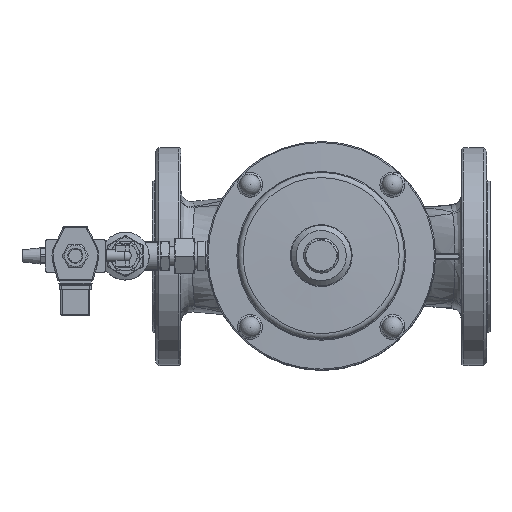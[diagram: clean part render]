
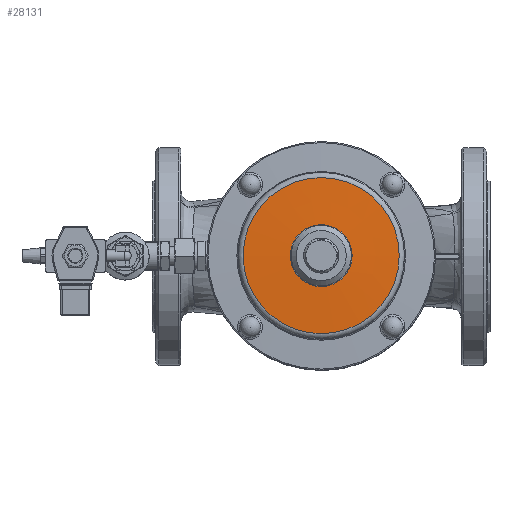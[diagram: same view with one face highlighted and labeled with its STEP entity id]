
A CAD part, top view. The second image highlights one B-rep face of the part: STEP entity #28131.
In plain terms, the highlighted conical face has half-angle 88 degrees and reference radius 52.247 mm.
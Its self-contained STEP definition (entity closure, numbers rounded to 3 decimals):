
#27933=CARTESIAN_POINT('',(-71.674,0.,539.475));
#27934=VERTEX_POINT('',#27933);
#27935=CARTESIAN_POINT('',(0.,0.,539.475));
#27936=DIRECTION('',(0.0,0.0,-1.0));
#27937=DIRECTION('',(1.0,0.0,0.0));
#27938=AXIS2_PLACEMENT_3D('',#27935,#27936,#27937);
#27939=CIRCLE('',#27938,71.674);
#27940=EDGE_CURVE('',#27934,#27934,#27939,.T.);
#28112=CARTESIAN_POINT('',(0.,0.,540.153));
#28113=DIRECTION('',(0.,0.,-1.0));
#28114=DIRECTION('',(-1.0,0.0,0.0));
#28115=AXIS2_PLACEMENT_3D('',#28112,#28113,#28114);
#28116=CONICAL_SURFACE('',#28115,52.247,88.);
#28117=ORIENTED_EDGE('',*,*,#27940,.F.);
#28118=EDGE_LOOP('',(#28117));
#28119=FACE_OUTER_BOUND('',#28118,.T.);
#28120=CARTESIAN_POINT('',(-28.387,0.,540.986));
#28121=VERTEX_POINT('',#28120);
#28122=CARTESIAN_POINT('',(0.,0.,540.986));
#28123=DIRECTION('',(0.0,0.0,1.0));
#28124=DIRECTION('',(1.0,0.0,0.0));
#28125=AXIS2_PLACEMENT_3D('',#28122,#28123,#28124);
#28126=CIRCLE('',#28125,28.387);
#28127=EDGE_CURVE('',#28121,#28121,#28126,.T.);
#28128=ORIENTED_EDGE('',*,*,#28127,.F.);
#28129=EDGE_LOOP('',(#28128));
#28130=FACE_BOUND('',#28129,.T.);
#28131=ADVANCED_FACE('',(#28119,#28130),#28116,.T.);
